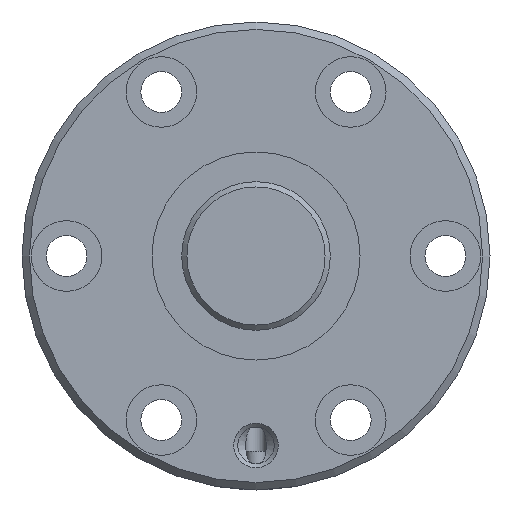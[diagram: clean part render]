
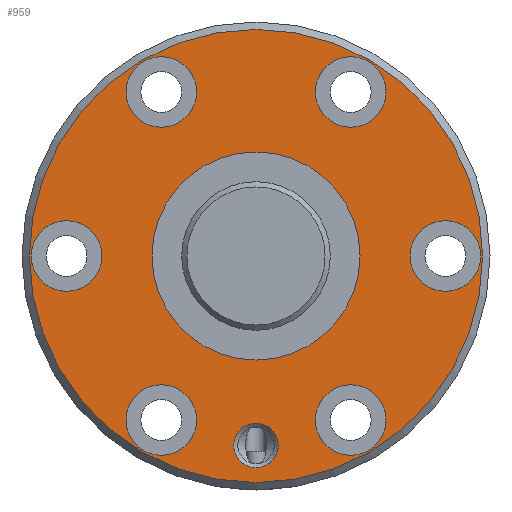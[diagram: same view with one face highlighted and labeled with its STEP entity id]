
A CAD part, left-side view. The second image highlights one B-rep face of the part: STEP entity #959.
In plain terms, the highlighted planar face has unit normal (-1, 0, 0).
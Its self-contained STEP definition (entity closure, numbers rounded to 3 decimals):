
#170=ORIENTED_EDGE('',*,*,#389,.T.);
#171=ORIENTED_EDGE('',*,*,#390,.T.);
#172=ORIENTED_EDGE('',*,*,#391,.T.);
#173=ORIENTED_EDGE('',*,*,#392,.T.);
#174=ORIENTED_EDGE('',*,*,#393,.T.);
#175=ORIENTED_EDGE('',*,*,#394,.T.);
#176=ORIENTED_EDGE('',*,*,#395,.T.);
#177=ORIENTED_EDGE('',*,*,#396,.T.);
#178=ORIENTED_EDGE('',*,*,#388,.F.);
#388=EDGE_CURVE('',#501,#501,#589,.T.);
#389=EDGE_CURVE('',#502,#502,#590,.T.);
#390=EDGE_CURVE('',#503,#503,#591,.F.);
#391=EDGE_CURVE('',#504,#504,#592,.T.);
#392=EDGE_CURVE('',#505,#505,#593,.T.);
#393=EDGE_CURVE('',#506,#506,#594,.T.);
#394=EDGE_CURVE('',#507,#507,#595,.T.);
#395=EDGE_CURVE('',#508,#508,#596,.T.);
#396=EDGE_CURVE('',#509,#509,#597,.T.);
#501=VERTEX_POINT('',#1592);
#502=VERTEX_POINT('',#1595);
#503=VERTEX_POINT('',#1597);
#504=VERTEX_POINT('',#1599);
#505=VERTEX_POINT('',#1601);
#506=VERTEX_POINT('',#1603);
#507=VERTEX_POINT('',#1605);
#508=VERTEX_POINT('',#1607);
#509=VERTEX_POINT('',#1609);
#589=CIRCLE('',#1066,30.5);
#590=CIRCLE('',#1068,14.);
#591=CIRCLE('',#1069,4.75);
#592=CIRCLE('',#1070,3.);
#593=CIRCLE('',#1071,4.75);
#594=CIRCLE('',#1072,4.75);
#595=CIRCLE('',#1073,4.75);
#596=CIRCLE('',#1074,4.75);
#597=CIRCLE('',#1075,4.75);
#670=EDGE_LOOP('',(#170));
#671=EDGE_LOOP('',(#171));
#672=EDGE_LOOP('',(#172));
#673=EDGE_LOOP('',(#173));
#674=EDGE_LOOP('',(#174));
#675=EDGE_LOOP('',(#175));
#676=EDGE_LOOP('',(#176));
#677=EDGE_LOOP('',(#177));
#678=EDGE_LOOP('',(#178));
#806=FACE_BOUND('',#670,.T.);
#807=FACE_BOUND('',#671,.T.);
#808=FACE_BOUND('',#672,.T.);
#809=FACE_BOUND('',#673,.T.);
#810=FACE_BOUND('',#674,.T.);
#811=FACE_BOUND('',#675,.T.);
#812=FACE_BOUND('',#676,.T.);
#813=FACE_BOUND('',#677,.T.);
#814=FACE_BOUND('',#678,.T.);
#924=PLANE('',#1067);
#959=ADVANCED_FACE('',(#806,#807,#808,#809,#810,#811,#812,#813,#814),#924,
 .T.);
#1066=AXIS2_PLACEMENT_3D('',#1591,#1234,#1235);
#1067=AXIS2_PLACEMENT_3D('',#1593,#1236,#1237);
#1068=AXIS2_PLACEMENT_3D('',#1594,#1238,#1239);
#1069=AXIS2_PLACEMENT_3D('',#1596,#1240,#1241);
#1070=AXIS2_PLACEMENT_3D('',#1598,#1242,#1243);
#1071=AXIS2_PLACEMENT_3D('',#1600,#1244,#1245);
#1072=AXIS2_PLACEMENT_3D('',#1602,#1246,#1247);
#1073=AXIS2_PLACEMENT_3D('',#1604,#1248,#1249);
#1074=AXIS2_PLACEMENT_3D('',#1606,#1250,#1251);
#1075=AXIS2_PLACEMENT_3D('',#1608,#1252,#1253);
#1234=DIRECTION('',(1.,0.,0.));
#1235=DIRECTION('',(0.,0.,-1.));
#1236=DIRECTION('',(-1.,0.,0.));
#1237=DIRECTION('',(0.,0.,1.));
#1238=DIRECTION('',(1.,0.,0.));
#1239=DIRECTION('',(0.,0.,-1.));
#1240=DIRECTION('',(-1.,0.,0.));
#1241=DIRECTION('',(0.,0.,1.));
#1242=DIRECTION('',(1.,0.,0.));
#1243=DIRECTION('',(0.,0.,-1.));
#1244=DIRECTION('',(1.,0.,0.));
#1245=DIRECTION('',(0.,0.,-1.));
#1246=DIRECTION('',(1.,0.,0.));
#1247=DIRECTION('',(0.,0.,-1.));
#1248=DIRECTION('',(1.,0.,0.));
#1249=DIRECTION('',(0.,0.,-1.));
#1250=DIRECTION('',(1.,0.,0.));
#1251=DIRECTION('',(0.,0.,-1.));
#1252=DIRECTION('',(1.,0.,0.));
#1253=DIRECTION('',(0.,0.,-1.));
#1591=CARTESIAN_POINT('',(0.,0.,0.));
#1592=CARTESIAN_POINT('',(0.,0.,-30.5));
#1593=CARTESIAN_POINT('',(0.,30.5,0.));
#1594=CARTESIAN_POINT('',(0.,0.,0.));
#1595=CARTESIAN_POINT('',(0.,0.,-14.));
#1596=CARTESIAN_POINT('',(0.,25.5,0.));
#1597=CARTESIAN_POINT('',(0.,25.5,4.75));
#1598=CARTESIAN_POINT('',(0.,0.,-25.5));
#1599=CARTESIAN_POINT('',(0.,0.,-28.5));
#1600=CARTESIAN_POINT('',(0.,-25.5,0.));
#1601=CARTESIAN_POINT('',(0.,-25.5,-4.75));
#1602=CARTESIAN_POINT('',(0.,12.75,22.084));
#1603=CARTESIAN_POINT('',(0.,12.75,17.334));
#1604=CARTESIAN_POINT('',(0.,-12.75,-22.084));
#1605=CARTESIAN_POINT('',(0.,-12.75,-26.834));
#1606=CARTESIAN_POINT('',(0.,-12.75,22.084));
#1607=CARTESIAN_POINT('',(0.,-12.75,17.334));
#1608=CARTESIAN_POINT('',(0.,12.75,-22.084));
#1609=CARTESIAN_POINT('',(0.,12.75,-26.834));
